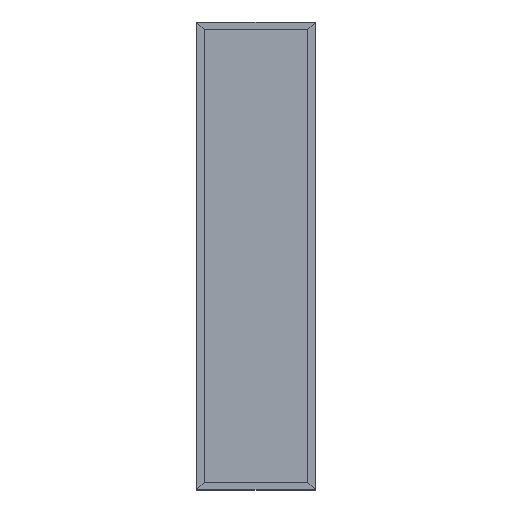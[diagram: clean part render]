
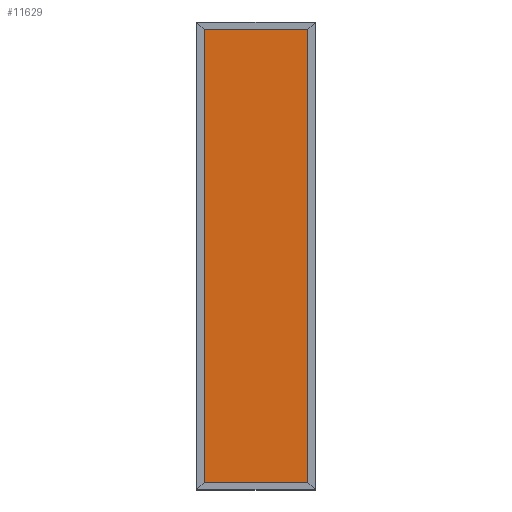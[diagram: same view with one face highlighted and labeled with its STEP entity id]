
A CAD part, top view. The second image highlights one B-rep face of the part: STEP entity #11629.
In plain terms, the highlighted planar face has unit normal (0, 0, 1).
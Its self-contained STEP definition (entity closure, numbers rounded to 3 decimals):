
#634 = ORIENTED_EDGE ( 'NONE', *, *, #11912, .T. ) ;
#1549 = DIRECTION ( 'NONE',  ( -1., 0., 0. ) ) ;
#1634 = CARTESIAN_POINT ( 'NONE',  ( 267.075, 1162.2, -13.25 ) ) ;
#1875 = LINE ( 'NONE', #7211, #6301 ) ;
#2632 = LINE ( 'NONE', #7866, #8318 ) ;
#2968 = LINE ( 'NONE', #5759, #16316 ) ;
#3625 = ORIENTED_EDGE ( 'NONE', *, *, #4524, .T. ) ;
#4218 = FACE_OUTER_BOUND ( 'NONE', #12708, .T. ) ;
#4524 = EDGE_CURVE ( 'NONE', #7523, #16831, #2968, .T. ) ;
#5138 = CARTESIAN_POINT ( 'NONE',  ( 267.075, -1162.2, -13.25 ) ) ;
#5759 = CARTESIAN_POINT ( 'NONE',  ( 0., 1162.2, -13.25 ) ) ;
#6301 = VECTOR ( 'NONE', #1549, 1000. ) ;
#7211 = CARTESIAN_POINT ( 'NONE',  ( 0., -1162.2, -13.25 ) ) ;
#7523 = VERTEX_POINT ( 'NONE', #1634 ) ;
#7866 = CARTESIAN_POINT ( 'NONE',  ( 267.075, 0., -13.25 ) ) ;
#8236 = DIRECTION ( 'NONE',  ( 0., 0., -1. ) ) ;
#8318 = VECTOR ( 'NONE', #12114, 1000. ) ;
#8931 = VERTEX_POINT ( 'NONE', #13455 ) ;
#9517 = ORIENTED_EDGE ( 'NONE', *, *, #15883, .F. ) ;
#9643 = CARTESIAN_POINT ( 'NONE',  ( 0., 0., -13.25 ) ) ;
#9873 = CARTESIAN_POINT ( 'NONE',  ( -267.075, 0., -13.25 ) ) ;
#10954 = LINE ( 'NONE', #9873, #17204 ) ;
#11107 = DIRECTION ( 'NONE',  ( -1., 0., 0. ) ) ;
#11629 = ADVANCED_FACE ( 'NONE', ( #4218 ), #15251, .F. ) ;
#11912 = EDGE_CURVE ( 'NONE', #14790, #7523, #2632, .T. ) ;
#12114 = DIRECTION ( 'NONE',  ( 0., 1., 0. ) ) ;
#12708 = EDGE_LOOP ( 'NONE', ( #9517, #634, #3625, #12802 ) ) ;
#12802 = ORIENTED_EDGE ( 'NONE', *, *, #14529, .F. ) ;
#13455 = CARTESIAN_POINT ( 'NONE',  ( -267.075, -1162.2, -13.25 ) ) ;
#13935 = AXIS2_PLACEMENT_3D ( 'NONE', #9643, #8236, #16485 ) ;
#14264 = CARTESIAN_POINT ( 'NONE',  ( -267.075, 1162.2, -13.25 ) ) ;
#14529 = EDGE_CURVE ( 'NONE', #8931, #16831, #10954, .T. ) ;
#14790 = VERTEX_POINT ( 'NONE', #5138 ) ;
#15251 = PLANE ( 'NONE',  #13935 ) ;
#15883 = EDGE_CURVE ( 'NONE', #14790, #8931, #1875, .T. ) ;
#16299 = DIRECTION ( 'NONE',  ( 0., 1., 0. ) ) ;
#16316 = VECTOR ( 'NONE', #11107, 1000. ) ;
#16485 = DIRECTION ( 'NONE',  ( -1., 0., 0. ) ) ;
#16831 = VERTEX_POINT ( 'NONE', #14264 ) ;
#17204 = VECTOR ( 'NONE', #16299, 1000. ) ;
